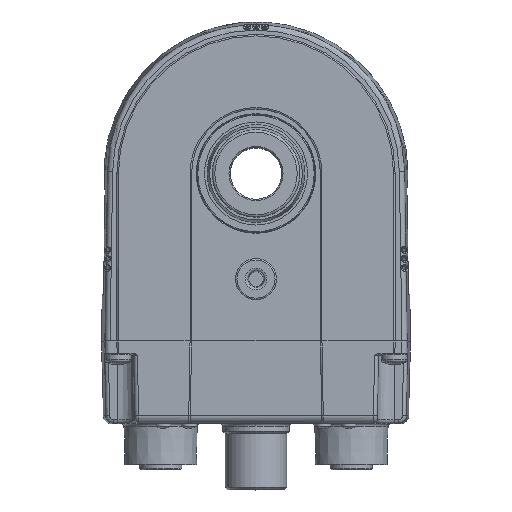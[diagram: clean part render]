
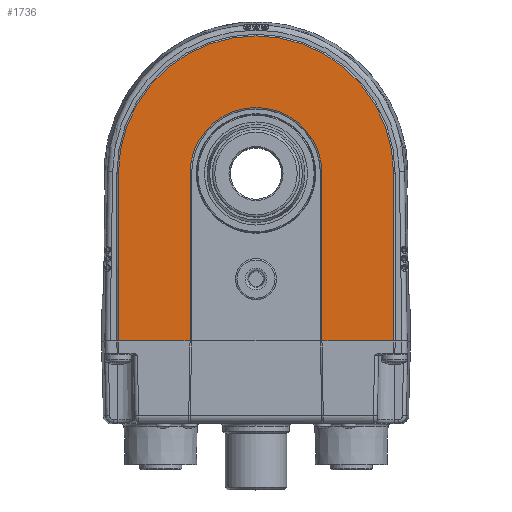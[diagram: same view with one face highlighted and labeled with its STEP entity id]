
A CAD part, top view. The second image highlights one B-rep face of the part: STEP entity #1736.
In plain terms, the highlighted planar face has unit normal (0, 0, 1).
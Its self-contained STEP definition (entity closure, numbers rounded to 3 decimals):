
#1736 = ADVANCED_FACE( '', ( #4496 ), #4497, .T. );
#4496 = FACE_OUTER_BOUND( '', #9415, .T. );
#4497 = PLANE( '', #9416 );
#9415 = EDGE_LOOP( '', ( #19973, #19974, #19975, #19976, #19977, #19978, #19979, #19980 ) );
#9416 = AXIS2_PLACEMENT_3D( '', #19981, #19982, #19983 );
#19973 = ORIENTED_EDGE( '', *, *, #29500, .T. );
#19974 = ORIENTED_EDGE( '', *, *, #29654, .T. );
#19975 = ORIENTED_EDGE( '', *, *, #29655, .T. );
#19976 = ORIENTED_EDGE( '', *, *, #29656, .T. );
#19977 = ORIENTED_EDGE( '', *, *, #29657, .T. );
#19978 = ORIENTED_EDGE( '', *, *, #29658, .T. );
#19979 = ORIENTED_EDGE( '', *, *, #29659, .T. );
#19980 = ORIENTED_EDGE( '', *, *, #29660, .T. );
#19981 = CARTESIAN_POINT( '', ( 0., 0., 50.4 ) );
#19982 = DIRECTION( '', ( 0., 0., 1. ) );
#19983 = DIRECTION( '', ( 1., 0., 0. ) );
#29500 = EDGE_CURVE( '', #34537, #34540, #34542, .T. );
#29654 = EDGE_CURVE( '', #34540, #34790, #34791, .T. );
#29655 = EDGE_CURVE( '', #34790, #34792, #34793, .T. );
#29656 = EDGE_CURVE( '', #34792, #34794, #34795, .T. );
#29657 = EDGE_CURVE( '', #34794, #34796, #34797, .T. );
#29658 = EDGE_CURVE( '', #34796, #34798, #34799, .T. );
#29659 = EDGE_CURVE( '', #34798, #34800, #34801, .T. );
#29660 = EDGE_CURVE( '', #34800, #34537, #34802, .T. );
#34537 = VERTEX_POINT( '', #42752 );
#34540 = VERTEX_POINT( '', #42755 );
#34542 = CIRCLE( '', #42757, 12.8 );
#34790 = VERTEX_POINT( '', #43104 );
#34791 = LINE( '', #43105, #43106 );
#34792 = VERTEX_POINT( '', #43107 );
#34793 = LINE( '', #43108, #43109 );
#34794 = VERTEX_POINT( '', #43110 );
#34795 = LINE( '', #43111, #43112 );
#34796 = VERTEX_POINT( '', #43113 );
#34797 = CIRCLE( '', #43114, 26.7 );
#34798 = VERTEX_POINT( '', #43115 );
#34799 = LINE( '', #43116, #43117 );
#34800 = VERTEX_POINT( '', #43118 );
#34801 = LINE( '', #43119, #43120 );
#34802 = LINE( '', #43121, #43122 );
#42752 = CARTESIAN_POINT( '', ( -12.8, 0., 50.4 ) );
#42755 = CARTESIAN_POINT( '', ( 12.8, 0., 50.4 ) );
#42757 = AXIS2_PLACEMENT_3D( '', #51833, #51834, #51835 );
#43104 = CARTESIAN_POINT( '', ( 12.8, -32.5, 50.4 ) );
#43105 = CARTESIAN_POINT( '', ( 12.8, -32.5, 50.4 ) );
#43106 = VECTOR( '', #52028, 1000. );
#43107 = CARTESIAN_POINT( '', ( 26.7, -32.5, 50.4 ) );
#43108 = CARTESIAN_POINT( '', ( 12.5, -32.5, 50.4 ) );
#43109 = VECTOR( '', #52029, 1000. );
#43110 = CARTESIAN_POINT( '', ( 26.7, 0., 50.4 ) );
#43111 = CARTESIAN_POINT( '', ( 26.7, 0., 50.4 ) );
#43112 = VECTOR( '', #52030, 1000. );
#43113 = CARTESIAN_POINT( '', ( -26.7, 0., 50.4 ) );
#43114 = AXIS2_PLACEMENT_3D( '', #52031, #52032, #52033 );
#43115 = CARTESIAN_POINT( '', ( -26.7, -32.5, 50.4 ) );
#43116 = CARTESIAN_POINT( '', ( -26.7, -32.5, 50.4 ) );
#43117 = VECTOR( '', #52034, 1000. );
#43118 = CARTESIAN_POINT( '', ( -12.8, -32.5, 50.4 ) );
#43119 = CARTESIAN_POINT( '', ( -27., -32.5, 50.4 ) );
#43120 = VECTOR( '', #52035, 1000. );
#43121 = CARTESIAN_POINT( '', ( -12.8, 0., 50.4 ) );
#43122 = VECTOR( '', #52036, 1000. );
#51833 = CARTESIAN_POINT( '', ( 0., 0., 50.4 ) );
#51834 = DIRECTION( '', ( 0., 0., -1. ) );
#51835 = DIRECTION( '', ( 1., 0., 0. ) );
#52028 = DIRECTION( '', ( 0., -1., 0. ) );
#52029 = DIRECTION( '', ( 1., 0., 0. ) );
#52030 = DIRECTION( '', ( 0., 1., 0. ) );
#52031 = CARTESIAN_POINT( '', ( 0., 0., 50.4 ) );
#52032 = DIRECTION( '', ( 0., 0., 1. ) );
#52033 = DIRECTION( '', ( 1., 0., 0. ) );
#52034 = DIRECTION( '', ( 0., -1., 0. ) );
#52035 = DIRECTION( '', ( 1., 0., 0. ) );
#52036 = DIRECTION( '', ( 0., 1., 0. ) );
